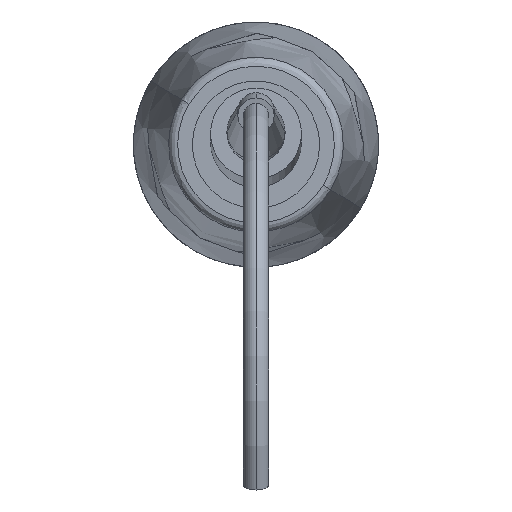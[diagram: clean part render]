
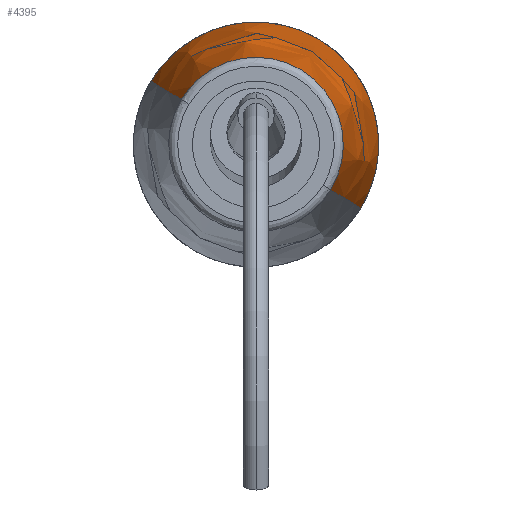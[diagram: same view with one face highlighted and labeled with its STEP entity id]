
A CAD part, left-side view. The second image highlights one B-rep face of the part: STEP entity #4395.
In plain terms, the highlighted free-form (B-spline) face has degree [3, 3] with [4, 4] control points.
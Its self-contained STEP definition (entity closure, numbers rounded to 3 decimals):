
#55 = AXIS2_PLACEMENT_3D ( 'NONE', #1632, #1633, #1634 ) ;
#69 = AXIS2_PLACEMENT_3D ( 'NONE', #1681, #1682, #1683 ) ;
#73 = AXIS2_PLACEMENT_3D ( 'NONE', #1694, #1695, #1696 ) ;
#400 = EDGE_CURVE ( 'NONE', #577, #855, #750, .T. ) ;
#577 = VERTEX_POINT ( 'NONE', #5354 ) ;
#583 = VERTEX_POINT ( 'NONE', #5360 ) ;
#750 = CIRCLE ( 'NONE', #5191, 9.615 ) ;
#855 = VERTEX_POINT ( 'NONE', #5420 ) ;
#984 = VERTEX_POINT ( 'NONE', #5454 ) ;
#986 = ORIENTED_EDGE ( 'NONE', *, *, #5212, .T. ) ;
#1055 = EDGE_LOOP ( 'NONE', ( #4375, #986, #5776, #5731 ) ) ;
#1249 = FACE_OUTER_BOUND ( 'NONE', #1055, .T. ) ;
#1632 = CARTESIAN_POINT ( 'NONE',  ( -83.275, 415.969, 251.386 ) ) ;
#1633 = DIRECTION ( 'NONE',  ( 0., -0.517, 0.856 ) ) ;
#1634 = DIRECTION ( 'NONE',  ( 0., -0.856, -0.517 ) ) ;
#1681 = CARTESIAN_POINT ( 'NONE',  ( -104.995, 0., 0. ) ) ;
#1682 = DIRECTION ( 'NONE',  ( -1., 0., 0. ) ) ;
#1683 = DIRECTION ( 'NONE',  ( 0., -1., 0. ) ) ;
#1694 = CARTESIAN_POINT ( 'NONE',  ( -83.275, -415.969, -251.386 ) ) ;
#1695 = DIRECTION ( 'NONE',  ( 0., 0.517, -0.856 ) ) ;
#1696 = DIRECTION ( 'NONE',  ( 0., 0.856, 0.517 ) ) ;
#2179 = CIRCLE ( 'NONE', #55, 500. ) ;
#2202 = CIRCLE ( 'NONE', #69, 13.498 ) ;
#2210 = CIRCLE ( 'NONE', #73, 500. ) ;
#2741 = CARTESIAN_POINT ( 'NONE',  ( -149.127, -8.229, -4.973 ) ) ;
#2742 = CARTESIAN_POINT ( 'NONE',  ( -149.127, -18.174, 11.484 ) ) ;
#2743 = CARTESIAN_POINT ( 'NONE',  ( -149.127, -1.717, 21.43 ) ) ;
#2744 = CARTESIAN_POINT ( 'NONE',  ( -149.127, 8.229, 4.973 ) ) ;
#2745 = CARTESIAN_POINT ( 'NONE',  ( -134.478, -9.894, -5.979 ) ) ;
#2746 = CARTESIAN_POINT ( 'NONE',  ( -134.478, -21.853, 13.809 ) ) ;
#2747 = CARTESIAN_POINT ( 'NONE',  ( -134.478, -2.065, 25.768 ) ) ;
#2748 = CARTESIAN_POINT ( 'NONE',  ( -134.478, 9.894, 5.979 ) ) ;
#2749 = CARTESIAN_POINT ( 'NONE',  ( -119.758, -11.003, -6.649 ) ) ;
#2750 = CARTESIAN_POINT ( 'NONE',  ( -119.758, -24.302, 15.356 ) ) ;
#2751 = CARTESIAN_POINT ( 'NONE',  ( -119.758, -2.296, 28.655 ) ) ;
#2752 = CARTESIAN_POINT ( 'NONE',  ( -119.758, 11.003, 6.649 ) ) ;
#2753 = CARTESIAN_POINT ( 'NONE',  ( -104.995, -11.552, -6.981 ) ) ;
#2754 = CARTESIAN_POINT ( 'NONE',  ( -104.995, -25.515, 16.123 ) ) ;
#2755 = CARTESIAN_POINT ( 'NONE',  ( -104.995, -2.411, 30.086 ) ) ;
#2756 = CARTESIAN_POINT ( 'NONE',  ( -104.995, 11.552, 6.981 ) ) ;
#4375 = ORIENTED_EDGE ( 'NONE', *, *, #400, .F. ) ;
#4395 = ADVANCED_FACE ( 'NONE', ( #1249 ), #4829, .T. ) ;
#4546 = CARTESIAN_POINT ( 'NONE',  ( -149.127, 0., 0. ) ) ;
#4635 = DIRECTION ( 'NONE',  ( 0., 0.856, 0.517 ) ) ;
#4655 = DIRECTION ( 'NONE',  ( -1., 0., 0. ) ) ;
#4829 =( BOUNDED_SURFACE ( )  B_SPLINE_SURFACE ( 3, 3, ( 
 ( #2741, #2742, #2743, #2744 ),
 ( #2745, #2746, #2747, #2748 ),
 ( #2749, #2750, #2751, #2752 ),
 ( #2753, #2754, #2755, #2756 ) ),
 .UNSPECIFIED., .F., .F., .F. ) 
 B_SPLINE_SURFACE_WITH_KNOTS ( ( 4, 4 ),
 ( 4, 4 ),
 ( 0., 1. ),
 ( 0., 1. ),
 .UNSPECIFIED. ) 
 GEOMETRIC_REPRESENTATION_ITEM ( )  RATIONAL_B_SPLINE_SURFACE ( (
 ( 1., 0.333, 0.333, 1.),
 ( 0.999, 0.333, 0.333, 0.999),
 ( 0.999, 0.333, 0.333, 0.999),
 ( 1., 0.333, 0.333, 1.) ) ) 
 REPRESENTATION_ITEM ( '' )  SURFACE ( )  );
#5191 = AXIS2_PLACEMENT_3D ( 'NONE', #4546, #4655, #4635 ) ;
#5212 = EDGE_CURVE ( 'NONE', #577, #583, #2179, .T. ) ;
#5232 = EDGE_CURVE ( 'NONE', #583, #984, #2202, .T. ) ;
#5238 = EDGE_CURVE ( 'NONE', #855, #984, #2210, .T. ) ;
#5354 = CARTESIAN_POINT ( 'NONE',  ( -149.127, -8.229, -4.973 ) ) ;
#5360 = CARTESIAN_POINT ( 'NONE',  ( -104.995, -11.552, -6.981 ) ) ;
#5420 = CARTESIAN_POINT ( 'NONE',  ( -149.127, 8.229, 4.973 ) ) ;
#5454 = CARTESIAN_POINT ( 'NONE',  ( -104.995, 11.552, 6.981 ) ) ;
#5731 = ORIENTED_EDGE ( 'NONE', *, *, #5238, .F. ) ;
#5776 = ORIENTED_EDGE ( 'NONE', *, *, #5232, .T. ) ;
